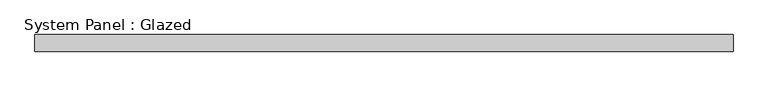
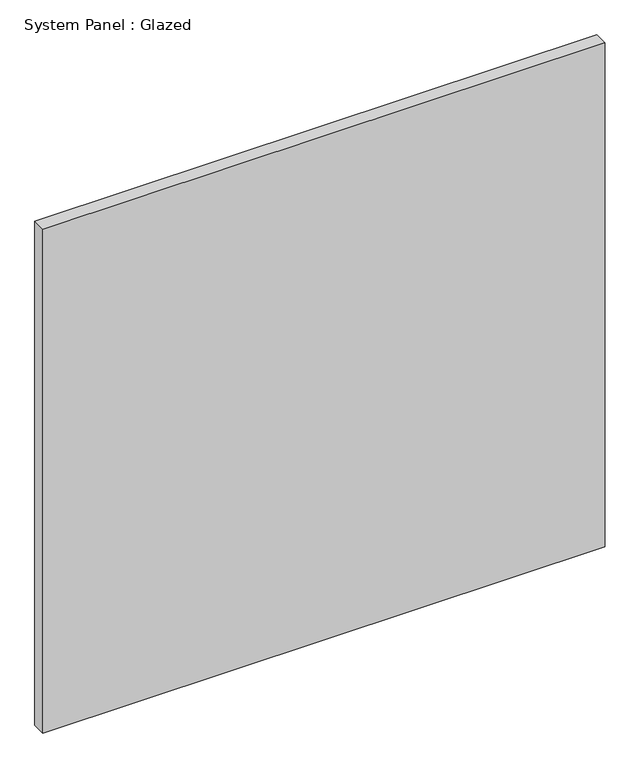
"""IFC4 building model written with IfcOpenShell, lengths in millimetres: plate geometry, System Panel : Glazed."""

from ifc_helpers import new_model, si_unit, origin, origin_with_axes, place, context, project, spatial, polyline, outline, extrude, source, transform, mapped, element, save


def system_panel_glazed_b4721104(model_context):
    return source(origin(), model_context, "Body", "SweptSolid", [
        extrude(outline(polyline([(519.3392857, 19.05), (-519.3392857, 19.05), (-519.3392857, 44.45), (519.3392857, 44.45), (519.3392857, 19.05)])), origin_with_axes(), (0.0, 0.0, 1.0), 984.3895219),
    ])


if __name__ == "__main__":
    model = new_model("IFC4")
    model_context = context("Model", 3, world=origin())
    ifc_project = project(units=[si_unit("LENGTHUNIT", "METRE", prefix="MILLI")], contexts=[model_context])
    site = spatial("IfcSite", under=ifc_project)
    building = spatial("IfcBuilding", under=site)
    placement = place(None, origin())
    system_panel_glazed_shape = system_panel_glazed_b4721104(model_context)
    element("IfcPlate", 1, ObjectType="System Panel : Glazed", at=placement, inside=building, context=model_context, shape_type="MappedRepresentation", body=[
        mapped(system_panel_glazed_shape, transform((0.0, 0.0, 0.0), x_axis=(1.0, 0.0, 0.0), y_axis=(0.0, 1.0, 0.0), z_axis=(0.0, 0.0, 1.0))),
    ])
    save(model, "model.ifc")
